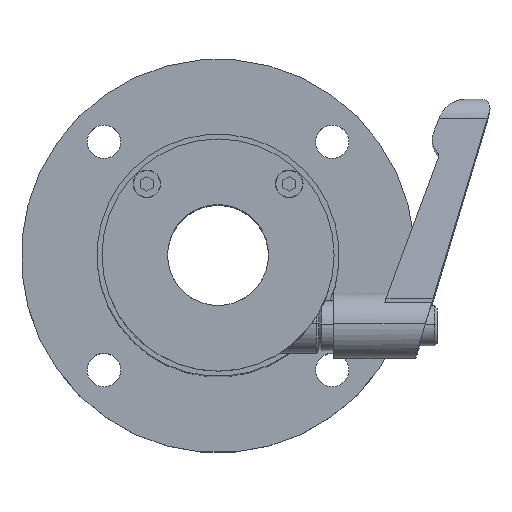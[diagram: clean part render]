
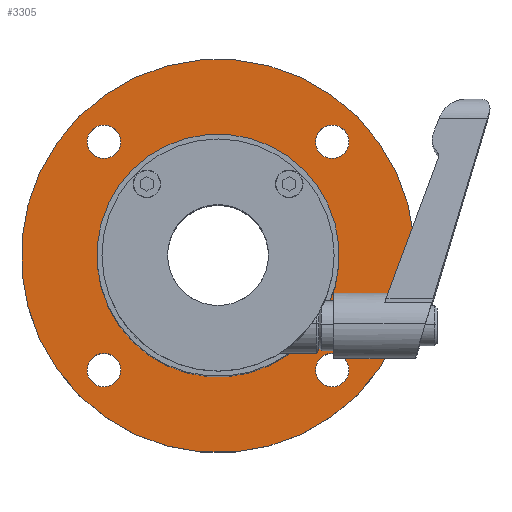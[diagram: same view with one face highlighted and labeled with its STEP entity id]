
A CAD part, top view. The second image highlights one B-rep face of the part: STEP entity #3305.
In plain terms, the highlighted planar face has unit normal (0, 0, 1).
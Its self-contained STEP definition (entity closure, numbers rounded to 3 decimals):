
#24 = CARTESIAN_POINT ( 'NONE',  ( -23.718, -16.515, 71.309 ) ) ;
#139 = VERTEX_POINT ( 'NONE', #4945 ) ;
#346 = CARTESIAN_POINT ( 'NONE',  ( 18.23, 20.733, 71.309 ) ) ;
#471 = CARTESIAN_POINT ( 'NONE',  ( -29.375, -22.171, 71.309 ) ) ;
#532 = DIRECTION ( 'NONE',  ( -0.707, 0.707, 0. ) ) ;
#630 = CARTESIAN_POINT ( 'NONE',  ( 13.53, 25.433, 71.309 ) ) ;
#638 = VERTEX_POINT ( 'NONE', #8282 ) ;
#675 = ORIENTED_EDGE ( 'NONE', *, *, #5057, .T. ) ;
#819 = CARTESIAN_POINT ( 'NONE',  ( -6.748, 0.456, 71.309 ) ) ;
#853 = CIRCLE ( 'NONE', #1145, 3.324 ) ;
#886 = EDGE_CURVE ( 'NONE', #6803, #2899, #4854, .T. ) ;
#920 = ORIENTED_EDGE ( 'NONE', *, *, #8632, .T. ) ;
#1067 = EDGE_LOOP ( 'NONE', ( #6917, #2172 ) ) ;
#1094 = CARTESIAN_POINT ( 'NONE',  ( -6.748, 0.456, 71.309 ) ) ;
#1145 = AXIS2_PLACEMENT_3D ( 'NONE', #1825, #7896, #1688 ) ;
#1198 = DIRECTION ( 'NONE',  ( 0., 0., -1. ) ) ;
#1300 = CIRCLE ( 'NONE', #2620, 24. ) ;
#1402 = ORIENTED_EDGE ( 'NONE', *, *, #4318, .T. ) ;
#1486 = DIRECTION ( 'NONE',  ( 0.707, -0.707, 0. ) ) ;
#1594 = AXIS2_PLACEMENT_3D ( 'NONE', #7675, #5668, #1486 ) ;
#1674 = AXIS2_PLACEMENT_3D ( 'NONE', #471, #5979, #3220 ) ;
#1688 = DIRECTION ( 'NONE',  ( -0.707, -0.707, 0. ) ) ;
#1727 = AXIS2_PLACEMENT_3D ( 'NONE', #5988, #7936, #2522 ) ;
#1739 = FACE_BOUND ( 'NONE', #1067, .T. ) ;
#1751 = CIRCLE ( 'NONE', #6560, 3.324 ) ;
#1825 = CARTESIAN_POINT ( 'NONE',  ( 15.88, -22.171, 71.309 ) ) ;
#1912 = EDGE_CURVE ( 'NONE', #3074, #5053, #4356, .T. ) ;
#2077 = EDGE_LOOP ( 'NONE', ( #8084, #675 ) ) ;
#2143 = EDGE_CURVE ( 'NONE', #7225, #2973, #1751, .T. ) ;
#2172 = ORIENTED_EDGE ( 'NONE', *, *, #3929, .T. ) ;
#2433 = CARTESIAN_POINT ( 'NONE',  ( 20.829, 28.033, 71.309 ) ) ;
#2522 = DIRECTION ( 'NONE',  ( -0.707, 0.707, 0. ) ) ;
#2530 = AXIS2_PLACEMENT_3D ( 'NONE', #6860, #7699, #3574 ) ;
#2563 = DIRECTION ( 'NONE',  ( -0.707, -0.707, 0. ) ) ;
#2620 = AXIS2_PLACEMENT_3D ( 'NONE', #1094, #4643, #4496 ) ;
#2661 = EDGE_CURVE ( 'NONE', #139, #5494, #7642, .T. ) ;
#2838 = CARTESIAN_POINT ( 'NONE',  ( -6.748, 0.456, 71.309 ) ) ;
#2899 = VERTEX_POINT ( 'NONE', #630 ) ;
#2954 = DIRECTION ( 'NONE',  ( -0.707, -0.707, 0. ) ) ;
#2973 = VERTEX_POINT ( 'NONE', #4261 ) ;
#3023 = DIRECTION ( 'NONE',  ( 0., 0., -1. ) ) ;
#3058 = FACE_BOUND ( 'NONE', #2077, .T. ) ;
#3074 = VERTEX_POINT ( 'NONE', #2433 ) ;
#3182 = PLANE ( 'NONE',  #1727 ) ;
#3220 = DIRECTION ( 'NONE',  ( -0.707, 0.707, 0. ) ) ;
#3305 = ADVANCED_FACE ( 'NONE', ( #7397, #7355, #1739, #5257, #3058, #4520 ), #3182, .T. ) ;
#3438 = AXIS2_PLACEMENT_3D ( 'NONE', #2838, #4201, #5071 ) ;
#3515 = CARTESIAN_POINT ( 'NONE',  ( -31.725, 20.733, 71.309 ) ) ;
#3574 = DIRECTION ( 'NONE',  ( 0.707, -0.707, 0. ) ) ;
#3694 = EDGE_LOOP ( 'NONE', ( #6704, #7741 ) ) ;
#3746 = ORIENTED_EDGE ( 'NONE', *, *, #8103, .T. ) ;
#3849 = VERTEX_POINT ( 'NONE', #5230 ) ;
#3929 = EDGE_CURVE ( 'NONE', #2899, #6803, #5528, .T. ) ;
#4007 = DIRECTION ( 'NONE',  ( 0., 0., -1. ) ) ;
#4020 = CIRCLE ( 'NONE', #8852, 3.324 ) ;
#4062 = CARTESIAN_POINT ( 'NONE',  ( -29.375, 23.083, 71.309 ) ) ;
#4201 = DIRECTION ( 'NONE',  ( 0., 0., -1. ) ) ;
#4261 = CARTESIAN_POINT ( 'NONE',  ( -27.025, 25.433, 71.309 ) ) ;
#4318 = EDGE_CURVE ( 'NONE', #638, #3849, #4630, .T. ) ;
#4356 = CIRCLE ( 'NONE', #5829, 39. ) ;
#4368 = CARTESIAN_POINT ( 'NONE',  ( 10.223, 17.426, 71.309 ) ) ;
#4496 = DIRECTION ( 'NONE',  ( -0.707, -0.707, 0. ) ) ;
#4520 = FACE_BOUND ( 'NONE', #4700, .T. ) ;
#4528 = DIRECTION ( 'NONE',  ( 0., 0., -1. ) ) ;
#4554 = EDGE_LOOP ( 'NONE', ( #3746, #7243 ) ) ;
#4618 = CARTESIAN_POINT ( 'NONE',  ( -29.375, -22.171, 71.309 ) ) ;
#4630 = CIRCLE ( 'NONE', #5790, 3.324 ) ;
#4643 = DIRECTION ( 'NONE',  ( 0., 0., -1. ) ) ;
#4700 = EDGE_LOOP ( 'NONE', ( #7199, #5083 ) ) ;
#4854 = CIRCLE ( 'NONE', #2530, 3.324 ) ;
#4945 = CARTESIAN_POINT ( 'NONE',  ( -31.725, -19.821, 71.309 ) ) ;
#5053 = VERTEX_POINT ( 'NONE', #5440 ) ;
#5057 = EDGE_CURVE ( 'NONE', #5494, #139, #4020, .T. ) ;
#5071 = DIRECTION ( 'NONE',  ( -0.707, -0.707, 0. ) ) ;
#5081 = CARTESIAN_POINT ( 'NONE',  ( -29.375, 23.083, 71.309 ) ) ;
#5083 = ORIENTED_EDGE ( 'NONE', *, *, #8263, .T. ) ;
#5230 = CARTESIAN_POINT ( 'NONE',  ( 13.53, -24.522, 71.309 ) ) ;
#5257 = FACE_BOUND ( 'NONE', #8415, .T. ) ;
#5440 = CARTESIAN_POINT ( 'NONE',  ( -34.325, -27.121, 71.309 ) ) ;
#5494 = VERTEX_POINT ( 'NONE', #6388 ) ;
#5528 = CIRCLE ( 'NONE', #1594, 3.324 ) ;
#5668 = DIRECTION ( 'NONE',  ( 0., 0., -1. ) ) ;
#5790 = AXIS2_PLACEMENT_3D ( 'NONE', #8819, #4528, #2563 ) ;
#5829 = AXIS2_PLACEMENT_3D ( 'NONE', #819, #7018, #2954 ) ;
#5979 = DIRECTION ( 'NONE',  ( 0., 0., -1. ) ) ;
#5988 = CARTESIAN_POINT ( 'NONE',  ( -29.022, -21.818, 71.309 ) ) ;
#6011 = EDGE_CURVE ( 'NONE', #5053, #3074, #7104, .T. ) ;
#6074 = CARTESIAN_POINT ( 'NONE',  ( -6.748, 0.456, 71.309 ) ) ;
#6388 = CARTESIAN_POINT ( 'NONE',  ( -27.025, -24.522, 71.309 ) ) ;
#6560 = AXIS2_PLACEMENT_3D ( 'NONE', #4062, #9003, #8270 ) ;
#6616 = EDGE_CURVE ( 'NONE', #8542, #7813, #1300, .T. ) ;
#6704 = ORIENTED_EDGE ( 'NONE', *, *, #6011, .F. ) ;
#6770 = DIRECTION ( 'NONE',  ( -0.707, -0.707, 0. ) ) ;
#6803 = VERTEX_POINT ( 'NONE', #346 ) ;
#6816 = AXIS2_PLACEMENT_3D ( 'NONE', #5081, #3023, #7647 ) ;
#6860 = CARTESIAN_POINT ( 'NONE',  ( 15.88, 23.083, 71.309 ) ) ;
#6917 = ORIENTED_EDGE ( 'NONE', *, *, #886, .T. ) ;
#7018 = DIRECTION ( 'NONE',  ( 0., 0., -1. ) ) ;
#7104 = CIRCLE ( 'NONE', #7253, 39. ) ;
#7199 = ORIENTED_EDGE ( 'NONE', *, *, #6616, .T. ) ;
#7225 = VERTEX_POINT ( 'NONE', #3515 ) ;
#7243 = ORIENTED_EDGE ( 'NONE', *, *, #2143, .T. ) ;
#7253 = AXIS2_PLACEMENT_3D ( 'NONE', #6074, #1198, #6770 ) ;
#7355 = FACE_BOUND ( 'NONE', #4554, .T. ) ;
#7397 = FACE_OUTER_BOUND ( 'NONE', #3694, .T. ) ;
#7400 = CIRCLE ( 'NONE', #3438, 24. ) ;
#7642 = CIRCLE ( 'NONE', #1674, 3.324 ) ;
#7647 = DIRECTION ( 'NONE',  ( 0.707, 0.707, 0. ) ) ;
#7675 = CARTESIAN_POINT ( 'NONE',  ( 15.88, 23.083, 71.309 ) ) ;
#7699 = DIRECTION ( 'NONE',  ( 0., 0., -1. ) ) ;
#7741 = ORIENTED_EDGE ( 'NONE', *, *, #1912, .F. ) ;
#7813 = VERTEX_POINT ( 'NONE', #4368 ) ;
#7896 = DIRECTION ( 'NONE',  ( 0., 0., -1. ) ) ;
#7936 = DIRECTION ( 'NONE',  ( 0., 0., 1. ) ) ;
#8084 = ORIENTED_EDGE ( 'NONE', *, *, #2661, .T. ) ;
#8103 = EDGE_CURVE ( 'NONE', #2973, #7225, #8265, .T. ) ;
#8263 = EDGE_CURVE ( 'NONE', #7813, #8542, #7400, .T. ) ;
#8265 = CIRCLE ( 'NONE', #6816, 3.324 ) ;
#8270 = DIRECTION ( 'NONE',  ( 0.707, 0.707, 0. ) ) ;
#8282 = CARTESIAN_POINT ( 'NONE',  ( 18.23, -19.821, 71.309 ) ) ;
#8415 = EDGE_LOOP ( 'NONE', ( #920, #1402 ) ) ;
#8542 = VERTEX_POINT ( 'NONE', #24 ) ;
#8632 = EDGE_CURVE ( 'NONE', #3849, #638, #853, .T. ) ;
#8819 = CARTESIAN_POINT ( 'NONE',  ( 15.88, -22.171, 71.309 ) ) ;
#8852 = AXIS2_PLACEMENT_3D ( 'NONE', #4618, #4007, #532 ) ;
#9003 = DIRECTION ( 'NONE',  ( 0., 0., -1. ) ) ;
